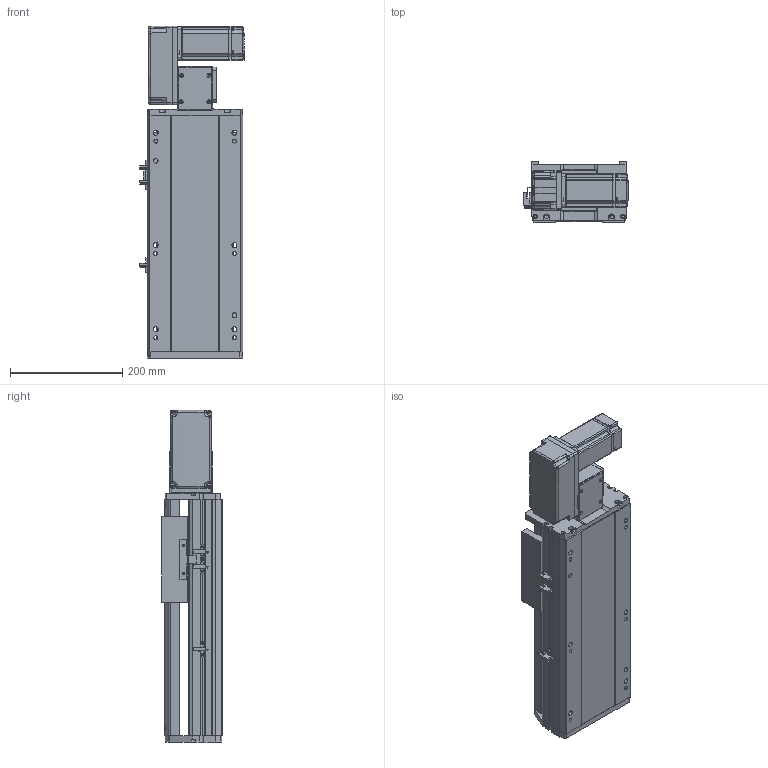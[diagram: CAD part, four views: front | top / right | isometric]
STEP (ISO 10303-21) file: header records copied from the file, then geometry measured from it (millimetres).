
FILE_DESCRIPTION (( 'STEP AP214' ), '1' );
FILE_NAME ('RTB17S-XX-150-L-M40-C4.STEP', '2025-12-11T03:47:09', ( '' ), ( '' ), 'SwSTEP 2.0', 'SolidWorks 2018', '' );
FILE_SCHEMA (( 'AUTOMOTIVE_DESIGN' ));
Length unit declared in the file: millimetre
Products named in the file (14): RTB14-L-008-M20--萇儂啣^RTB17S-L-々湍釱蚾饜-400W_RTB17S-XX-XX-L-M40-C4; RTB14-L-017P^RTB17S-L-々湍釱蚾饜-400W_RTB17S-XX-XX-L-M40-C4; RTB17S-XX-150-L-M40-C4; RTB14-L-018P^RTB17S-L-々湍釱蚾饜-400W_RTB17S-XX-XX-L-M40-C4; RTB17S-L-004佪裝蹟譫蟀諉釱^RTB17S-XX-XX-L-M40-C4; RTB17S-L-001耜醱啣^RTB17S-XX-XX-L-M40-C4; OMRON EE-SX672 传感器^RTB17S-XX-XX-L-M40-C4; RTB14-L-005P--轴承塑胶压盖^RTB17S-L-皮带座装配-400W_RTB17S-XX-XX-L-M40-C4; RTB17-R-011菁釱^RTB17S-XX-XX-L-M40-C4; RTH13-BL-012覜茼え俋离^RTB17S-XX-XX-L-M40-C4; 400W侜督萇儂^RTB17S-XX-XX-L-M40-C4; RMP17S-L-014-T20--々湍釱^RTB17S-L-々湍釱蚾饜-400W_RTB17S-XX-XX-L-M40-C4; RTB17S-L-007奻裔^RTB17S-XX-XX-L-M40-C4; RTB17S-L-々湍釱蚾饜-400W^RTB17S-XX-XX-L-M40-C4
Assembly tree (16 placements, depth 3):
  RTB17S-XX-150-L-M40-C4
    RTB17-R-011菁釱^RTB17S-XX-XX-L-M40-C4
    RTB17S-L-007奻裔^RTB17S-XX-XX-L-M40-C4
    OMRON EE-SX672 传感器^RTB17S-XX-XX-L-M40-C4  x3
    RTB17S-L-001耜醱啣^RTB17S-XX-XX-L-M40-C4
    400W侜督萇儂^RTB17S-XX-XX-L-M40-C4
    RTB17S-L-004佪裝蹟譫蟀諉釱^RTB17S-XX-XX-L-M40-C4
    RTH13-BL-012覜茼え俋离^RTB17S-XX-XX-L-M40-C4
    RTB17S-L-々湍釱蚾饜-400W^RTB17S-XX-XX-L-M40-C4
      RMP17S-L-014-T20--々湍釱^RTB17S-L-々湍釱蚾饜-400W_RTB17S-XX-XX-L-M40-C4
      RTB14-L-005P--轴承塑胶压盖^RTB17S-L-皮带座装配-400W_RTB17S-XX-XX-L-M40-C4
      RTB14-L-008-M20--萇儂啣^RTB17S-L-々湍釱蚾饜-400W_RTB17S-XX-XX-L-M40-C4
      RTB14-L-017P^RTB17S-L-々湍釱蚾饜-400W_RTB17S-XX-XX-L-M40-C4  x2
      RTB14-L-018P^RTB17S-L-々湍釱蚾饜-400W_RTB17S-XX-XX-L-M40-C4
Bounding box: 186 x 108 x 591 mm (x, y, z)
Volume: 5442698 mm3; surface area: 742167.2 mm2
Topology: 15 solids, 15 shells, 2141 faces, 5871 edges, 3825 vertices
Faces by surface type: plane 1060, cylinder 633, bspline 301, cone 139, torus 8
Entity records: 59561 total; most frequent: CARTESIAN_POINT 16476, ORIENTED_EDGE 8586, DIRECTION 8036, EDGE_CURVE 4293, VERTEX_POINT 2813, AXIS2_PLACEMENT_3D 2743, LINE 2550, VECTOR 2550
